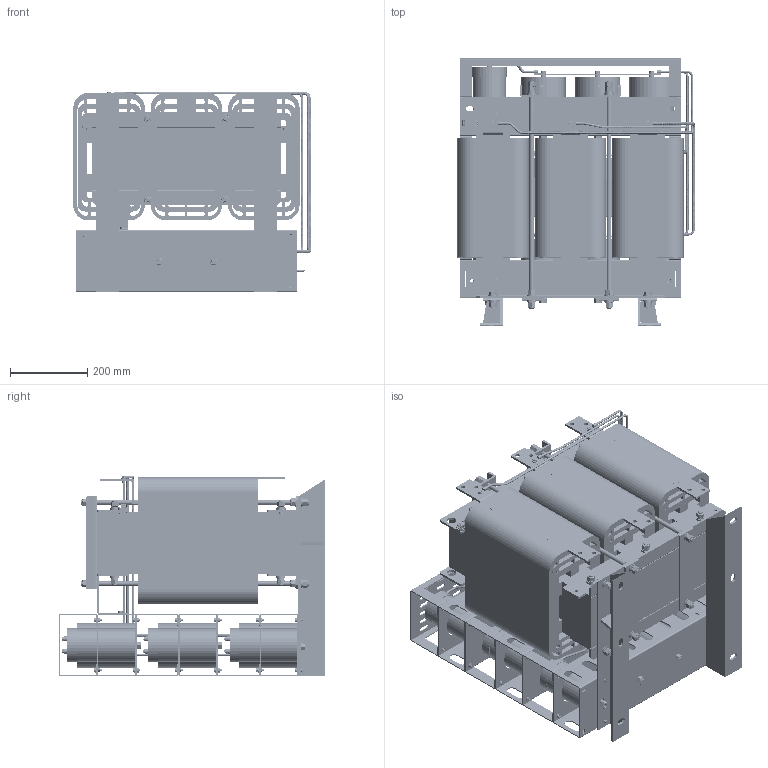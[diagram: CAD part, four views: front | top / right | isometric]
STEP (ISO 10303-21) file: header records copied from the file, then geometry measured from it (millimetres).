
FILE_DESCRIPTION(('STEP AP203'), '1');
FILE_NAME('蔓躅漤铋 耔眢耥 翳朦蝠 _ ISINOF-400_471-6', '', ('UNSPECIFIED'), ('UNSPECIFIED'), 'C3D Converter', 'C3D Toolkit', '');
FILE_SCHEMA(('CONFIG_CONTROL_DESIGN'));
Length unit declared in the file: millimetre
Products named in the file (59): ISINOF-400/471-6; LРНЦ吭X2\04560415\X0\; RNB14-6S; 吒X2\0425\X0\86-175; 吒X2\0425\X0\116-150; 琵X2\04270405041504230422\X0\; 琵X2\04270405041504270443\X0\; ї琵X2\041E\X0\做зЧУKV223-2P; А降еМх520-90-2; А降еМх琵X2\0436\X0\豹X2\0435\X0\98-90-2; ДЪДёЕЕ50x6; ЖЅ豹X2\043504560415\X0\豹X2\0435\X0\12x40x310; ЖЅ豹X2\043504560415\X0\豹X2\0435\X0\20x50x310; ИэПаМъРѕ490-520-156; ЙПјРјю-560ЎБ80ЎБ6; ПВјРјю-490ЎБ80ЎБ40; ПЯИ¦471A; ПВјРјю-490ЎБ80ЎБ40 јУЅУ琵X2\042804570427\X0\; №么X2\04270426041C0445\X0\12x10x310; ЖЅ豹X2\043504560415041C0445\X0\12x5x310; 琵X2\04370418042D0458042C\X0\2 (2); 琵X2\04370418042D0426\X0\吭X2\04560415\X0\; plain washers--product grade c gb_GB_FASTENER_WASHER_SMWC 12; spring lock washers--normal type gb_GB_FASTENER_WASHER_SW 12; hexagon nuts grade c gb_GB_FASTENER_NUT_SNC1 M12-N; M12x220; С№豹X2\0435\X0\; Б枯X2\0405042304150415\X0\; UРНС№Мх30-60-6; НвДёЕЕ50x6; M12X590; hexagon nuts grade c gb_GB_FASTENER_NUT_SNC1 M5-N; hex head bolts-full thread grade c gb_GB_FASTENER_BOLT_HHBFTC M12X35-N; plain washers--product grade c gb_GB_FASTENER_WASHER_SMWC 6; hex head bolts-full thread grade c gb_GB_FASTENER_BOLT_HHBFTC M6X16-N; Cable_1-ХэПТІЁВЛІЁЖчSKS-SF-0471-6AЈЇ05; 琵X2\043704100412\X0\^Cable_1-ХэПТІЁВЛІЁЖчSKS-SF-0471-6AЈЇ05; Cable_2-ХэПТІЁВЛІЁЖчSKS-SF-0471-6AЈЇ05; 琵X2\043704100412\X0\^Cable_2-ХэПТІЁВЛІЁЖчSKS-SF-0471-6AЈЇ05; Cable_3-ХэПТІЁВЛІЁЖчSKS-SF-0471-6AЈЇ05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
Assembly tree (394 placements, depth 3):
  ISINOF-400/471-6
    LРНЦ吭X2\04560415\X0\
    RNB14-6S  x22
    吒X2\0425\X0\86-175  x3
    吒X2\0425\X0\116-150  x9
    琵X2\04270405041504230422\X0\
    琵X2\04270405041504270443\X0\
    ї琵X2\041E\X0\做зЧУKV223-2P
    А降еМх520-90-2  x6
    А降еМх琵X2\0436\X0\豹X2\0435\X0\98-90-2  x8
    ДЪДёЕЕ50x6  x3
    ЖЅ豹X2\043504560415\X0\豹X2\0435\X0\12x40x310  x12
    ЖЅ豹X2\043504560415\X0\豹X2\0435\X0\20x50x310  x6
    ИэПаМъРѕ490-520-156
    ЙПјРјю-560ЎБ80ЎБ6  x2
    ПВјРјю-490ЎБ80ЎБ40
    ПЯИ¦471A  x3
    ПВјРјю-490ЎБ80ЎБ40 јУЅУ琵X2\042804570427\X0\
    №么X2\04270426041C0445\X0\12x10x310  x24
    ЖЅ豹X2\043504560415041C0445\X0\12x5x310  x12
    琵X2\04370418042D0458042C\X0\2 (2)  x3
    琵X2\04370418042D0426\X0\吭X2\04560415\X0\  x4
    plain washers--product grade c gb_GB_FASTENER_WASHER_SMWC 12  x48
    spring lock washers--normal type gb_GB_FASTENER_WASHER_SW 12  x24
    hexagon nuts grade c gb_GB_FASTENER_NUT_SNC1 M12-N  x44
    M12x220  x6
    С№豹X2\0435\X0\  x2
    Б枯X2\0405042304150415\X0\  x6
    UРНС№Мх30-60-6  x2
    НвДёЕЕ50x6  x3
    M12X590  x4
    hexagon nuts grade c gb_GB_FASTENER_NUT_SNC1 M5-N
    hex head bolts-full thread grade c gb_GB_FASTENER_BOLT_HHBFTC M12X35-N  x4
    plain washers--product grade c gb_GB_FASTENER_WASHER_SMWC 6  x51
    hex head bolts-full thread grade c gb_GB_FASTENER_BOLT_HHBFTC M6X16-N  x51
    Cable_1-ХэПТІЁВЛІЁЖчSKS-SF-0471-6AЈЇ05
      琵X2\043704100412\X0\^Cable_1-ХэПТІЁВЛІЁЖчSKS-SF-0471-6AЈЇ05
    Cable_2-ХэПТІЁВЛІЁЖчSKS-SF-0471-6AЈЇ05
      琵X2\043704100412\X0\^Cable_2-ХэПТІЁВЛІЁЖчSKS-SF-0471-6AЈЇ05
    Cable_3-ХэПТІЁВЛІЁЖчSKS-SF-0471-6AЈЇ05
      琵X2\043704100412\X0\^Cable_3-ХэПТІЁВЛІЁЖчSKS-SF-0471-6AЈЇ05
    Cable_4-ХэПТІЁВЛІЁЖчSKS-SF-0471-6AЈЇ05
      琵X2\043704100412\X0\^Cable_4-ХэПТІЁВЛІЁЖчSKS-SF-0471-6AЈЇ05
    Cable_5-ХэПТІЁВЛІЁЖчSKS-SF-0471-6AЈЇ05
      琵X2\043704100412\X0\^Cable_5-ХэПТІЁВЛІЁЖчSKS-SF-0471-6AЈЇ05
    Cable_6-ХэПТІЁВЛІЁЖчSKS-SF-0471-6AЈЇ05
      琵X2\043704100412\X0\^Cable_6-ХэПТІЁВЛІЁЖчSKS-SF-0471-6AЈЇ05
    Cable_7-ХэПТІЁВЛІЁЖчSKS-SF-0471-6AЈЇ05
      琵X2\043704100412\X0\^Cable_7-ХэПТІЁВЛІЁЖчSKS-SF-0471-6AЈЇ05
    Cable_8-ХэПТІЁВЛІЁЖчSKS-SF-0471-6AЈЇ05
      琵X2\043704100412\X0\^Cable_8-ХэПТІЁВЛІЁЖчSKS-SF-0471-6AЈЇ05
    Cable_9-ХэПТІЁВЛІЁЖчSKS-SF-0471-6AЈЇ05
      琵X2\043704100412\X0\^Cable_9-ХэПТІЁВЛІЁЖчSKS-SF-0471-6AЈЇ05
    Cable_10-ХэПТІЁВЛІЁЖчSKS-SF-0471-6AЈЇ05
      琵X2\043704100412\X0\^Cable_10-ХэПТІЁВЛІЁЖчSKS-SF-0471-6AЈЇ05
    ёЗЧУ (2)
    L1 L2 L3МщЦЅ
    L1ЎЇ L2Ўｮ L3ЎЇМщЦЅ
    琵X2\0428\X0\崤X2\043A\X0\
Bounding box: 613.74 x 690 x 519 mm (x, y, z)
Volume: 83267236.3 mm3; surface area: 11922671 mm2
Topology: 436 solids, 436 shells, 5682 faces, 12944 edges, 8415 vertices
Faces by surface type: plane 3318, cylinder 1687, cone 608, bspline 45, torus 24
Full cylindrical faces by diameter (mm): 3 x2, 3.8 x2, 4 x4, 4.134 x1, 6 x133, 6.2 x22, 6.4 x22, 6.6 x51, 8 x39, 10.106 x44, 11 x15, 12 x97, 12.5 x6, 12.9 x24, 13.5 x48, 14 x68, 16 x18, 19.1 x24, 24 x48, 25 x4, 27.3 x1, 28.5 x1, 30 x1, 63 x6, 75 x6, 86 x6, 90 x6, 112 x9, 116 x18, 120 x9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
Entity records: 91058 total; most frequent: CARTESIAN_POINT 29620, DIRECTION 8404, ORIENTED_EDGE 7466, EDGE_CURVE 3733, AXIS2_PLACEMENT_3D 2990, VERTEX_POINT 2598, LINE 2424, VECTOR 2424
